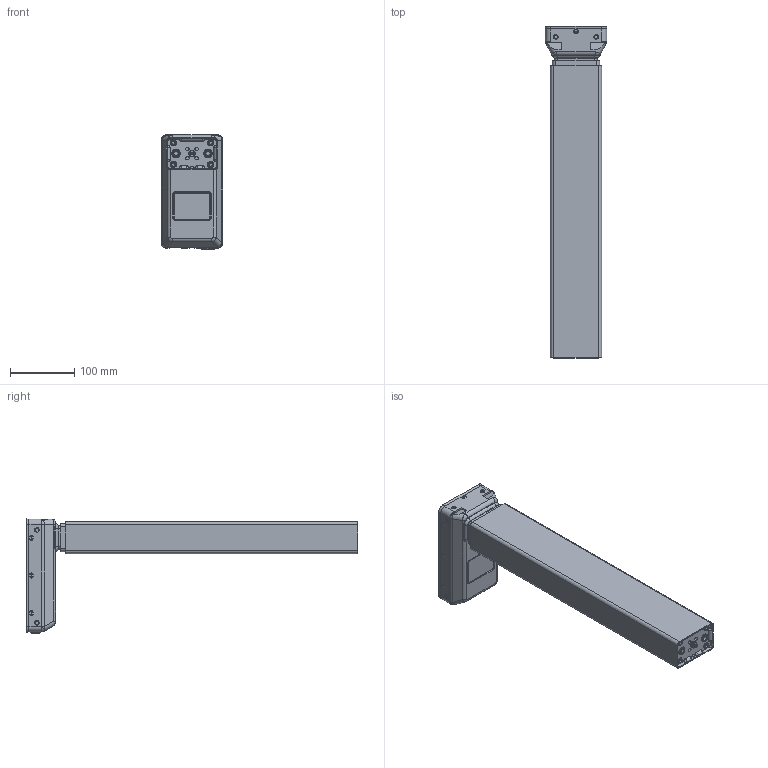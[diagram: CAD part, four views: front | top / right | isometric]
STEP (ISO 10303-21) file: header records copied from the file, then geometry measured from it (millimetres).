
FILE_DESCRIPTION((''),'2;1');
FILE_NAME('DL6PLUS_BIFMA_WITHOUT_BRACKET_ASM','2019-07-31T16:39:19',('bs'),(''),'CREO PARAMETRIC BY PTC INC, 2018400','CREO PARAMETRIC BY PTC INC, 2018400','');
FILE_SCHEMA(('AUTOMOTIVE_DESIGN { 1 0 10303 214 1 1 1 1 }'));
Length unit declared in the file: millimetre
Products named in the file (4): DL6PLUS_BIFMA_MP1; STANDART_MOTORHUS_DL6_; DL6PLUS_BIFMA_OUT1; DL6PLUS_BIFMA_WITHOUT_BRACKET_ASM
Assembly tree (3 placements, depth 2):
  DL6PLUS_BIFMA_WITHOUT_BRACKET_ASM
    DL6PLUS_BIFMA_MP1
    STANDART_MOTORHUS_DL6_
    DL6PLUS_BIFMA_OUT1
Bounding box: 96.5 x 518 x 178.6 mm (x, y, z)
Volume: 4900022.8 mm3; surface area: 372452 mm2
Topology: 3 solids, 4 shells, 917 faces, 2618 edges, 1732 vertices
Faces by surface type: plane 385, cylinder 367, torus 98, bspline 47, sphere 16, cone 4
Entity records: 38879 total; most frequent: CARTESIAN_POINT 10697, ORIENTED_EDGE 5206, DIRECTION 4998, EDGE_CURVE 2603, AXIS2_PLACEMENT_3D 1877, VERTEX_POINT 1732, VECTOR 1244, LINE 1244
